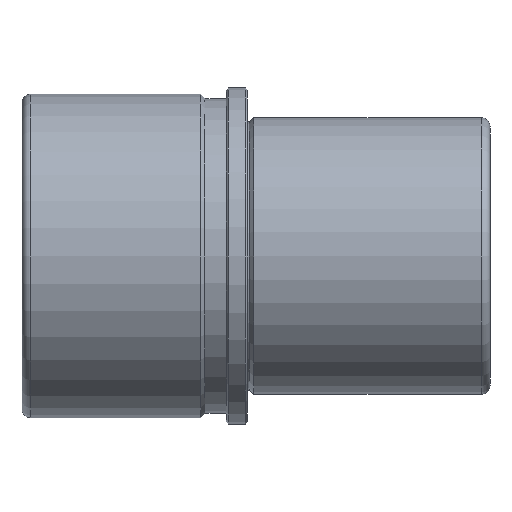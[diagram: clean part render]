
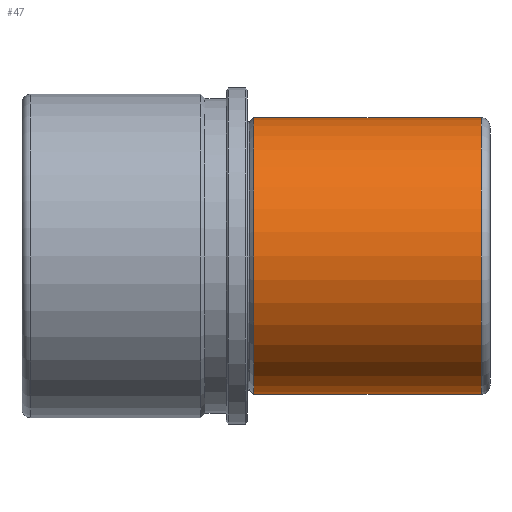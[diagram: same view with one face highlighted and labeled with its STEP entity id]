
A CAD part, front view. The second image highlights one B-rep face of the part: STEP entity #47.
In plain terms, the highlighted cylindrical face has radius 32.5 mm (diameter 65 mm), a full revolution.
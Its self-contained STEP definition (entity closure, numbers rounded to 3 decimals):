
#47 = ADVANCED_FACE( '', ( #108, #109 ), #110, .T. );
#108 = FACE_OUTER_BOUND( '', #201, .T. );
#109 = FACE_OUTER_BOUND( '', #202, .T. );
#110 = CYLINDRICAL_SURFACE( '', #203, 32.5 );
#201 = EDGE_LOOP( '', ( #290 ) );
#202 = EDGE_LOOP( '', ( #291 ) );
#203 = AXIS2_PLACEMENT_3D( '', #292, #293, #294 );
#290 = ORIENTED_EDGE( '', *, *, #415, .T. );
#291 = ORIENTED_EDGE( '', *, *, #416, .F. );
#292 = CARTESIAN_POINT( '', ( 57., 0., 0. ) );
#293 = DIRECTION( '', ( -1., 0., 0. ) );
#294 = DIRECTION( '', ( 0., 0., -1. ) );
#415 = EDGE_CURVE( '', #460, #460, #461, .T. );
#416 = EDGE_CURVE( '', #462, #462, #463, .T. );
#460 = VERTEX_POINT( '', #525 );
#461 = CIRCLE( '', #526, 32.5 );
#462 = VERTEX_POINT( '', #527 );
#463 = CIRCLE( '', #528, 32.5 );
#525 = CARTESIAN_POINT( '', ( 1.414, 0., -32.5 ) );
#526 = AXIS2_PLACEMENT_3D( '', #720, #721, #722 );
#527 = CARTESIAN_POINT( '', ( 55., 0., -32.5 ) );
#528 = AXIS2_PLACEMENT_3D( '', #723, #724, #725 );
#720 = CARTESIAN_POINT( '', ( 1.414, 0., 0. ) );
#721 = DIRECTION( '', ( 1., 0., 0. ) );
#722 = DIRECTION( '', ( 0., 0., -1. ) );
#723 = CARTESIAN_POINT( '', ( 55., 0., 0. ) );
#724 = DIRECTION( '', ( 1., 0., 0. ) );
#725 = DIRECTION( '', ( 0., 0., -1. ) );
